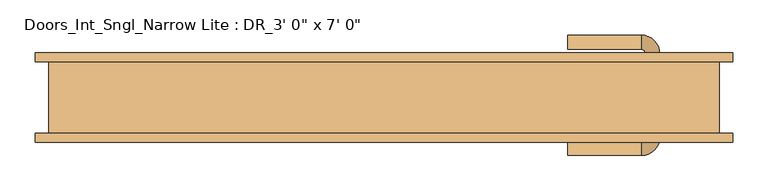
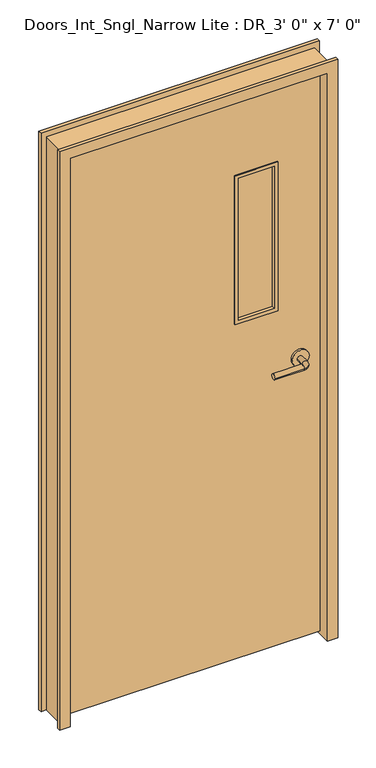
"""IFC4 building model written with IfcOpenShell, lengths in millimetres: door geometry."""

from ifc_helpers import new_model, si_unit, point, frame, frame_2d, origin, place, context, project, spatial, polyline, circle_curve, ellipse_curve, trimmed, segment, composite_curve, outline, extrude, faceted_brep, source, transform, mapped, element, save
from ifc_brep_helpers import plane_surface, cylinder_surface, revolved_surface, advanced_brep


def door_98901192(model_context):
    return source(origin(), model_context, "Body", "SolidModel", [
        advanced_brep(
        [(391.0, 33.4, 1066.8), (371.0, 33.4, 1066.8), (371.0, 63.4, 1066.8), (391.0, 63.4, 1066.8), (366.0, 68.4, 1066.8), (366.0, 88.4, 1066.8), (261.0, 88.4, 1066.8), (261.0, 68.4, 1066.8)],
        [
            (0, 1, circle_curve(frame((381.0, 33.4, 1066.8), z_axis=(0.0, -1.0, 0.0), x_axis=(-0.9999999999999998, 0.0, 0.0)), 10.0)),
            (1, 0, circle_curve(frame((381.0, 33.4, 1066.8), z_axis=(0.0, -1.0, 0.0), x_axis=(-0.9999999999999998, 0.0, 0.0)), 10.0)),
            (1, 2),
            (2, 3, circle_curve(frame((381.0, 63.4, 1066.8), z_axis=(0.0, -1.0, 0.0), x_axis=(-0.9999999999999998, 0.0, 0.0)), 10.0)),
            (3, 0),
            (3, 2, circle_curve(frame((381.0, 63.4, 1066.8), z_axis=(0.0, -1.0, 0.0), x_axis=(-0.9999999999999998, 0.0, 0.0)), 10.0)),
            (4, 5, circle_curve(frame((366.0, 78.4, 1066.8), z_axis=(0.9999999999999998, 0.0, 0.0), x_axis=(0.0, -0.9999999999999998, 0.0)), 10.0)),
            (5, 3, circle_curve(frame((366.0, 63.4, 1066.8), z_axis=(0.0, 0.0, -1.0), x_axis=(0.9999999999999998, 0.0, 0.0)), 25.0)),
            (2, 4, circle_curve(frame((366.0, 63.4, 1066.8), z_axis=(0.0, 0.0, 1.0), x_axis=(0.9999999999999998, 0.0, 0.0)), 5.0)),
            (5, 4, circle_curve(frame((366.0, 78.4, 1066.8), z_axis=(0.9999999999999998, 0.0, 0.0), x_axis=(0.0, -0.9999999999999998, 0.0)), 10.0)),
            (6, 7, circle_curve(frame((261.0, 78.4, 1066.8), z_axis=(-1.0, 0.0, 0.0), x_axis=(0.0, -0.9999999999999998, 0.0)), 10.0)),
            (7, 6, circle_curve(frame((261.0, 78.4, 1066.8), z_axis=(-1.0, 0.0, 0.0), x_axis=(0.0, -0.9999999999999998, 0.0)), 10.0)),
            (4, 7),
            (6, 5),
        ],
        [
            plane_surface(frame((381.0, 33.4, 1066.8), z_axis=(0.0, -1.0, 0.0), x_axis=(0.0, 0.0, 1.0))),
            cylinder_surface(frame((381.0, 33.4, 1066.8), z_axis=(0.0, -0.9999999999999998, 0.0), x_axis=(-0.9999999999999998, 0.0, 0.0)), 10.0),
            revolved_surface(trimmed(ellipse_curve(frame((381.0, 63.4, 1066.8), z_axis=(0.0, 0.9999999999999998, 0.0), x_axis=(-0.9999999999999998, 0.0, 0.0)), 10.0, 10.0), [point((391.0, 63.4, 1066.8))], [point((371.0, 63.4, 1066.8))], True, "CARTESIAN"), (366.0, 63.4, 1066.8), (0.0, 0.0, -1.0)),
            revolved_surface(trimmed(ellipse_curve(frame((381.0, 63.4, 1066.8), z_axis=(0.0, 0.9999999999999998, 0.0), x_axis=(-0.9999999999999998, 0.0, 0.0)), 10.0, 10.0), [point((371.0, 63.4, 1066.8))], [point((391.0, 63.4, 1066.8))], True, "CARTESIAN"), (366.0, 63.4, 1066.8), (0.0, 0.0, -1.0)),
            plane_surface(frame((261.0, 78.4, 1066.8), z_axis=(-1.0, 0.0, 0.0), x_axis=(0.0, 0.0, 1.0))),
            cylinder_surface(frame((366.0, 78.4, 1066.8), z_axis=(0.9999999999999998, 0.0, 0.0), x_axis=(0.0, -0.9999999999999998, 0.0)), 10.0),
        ],
        [
            (0, [[1, 2]]),
            (1, [[3, 4, 5, -2]]),
            (1, [[-5, 6, -3, -1]]),
            (2, [[7, 8, -4, 9]]),
            (3, [[10, -9, -6, -8]]),
            (4, [[11, 12]]),
            (5, [[13, -11, 14, -7]]),
            (5, [[-14, -12, -13, -10]]),
        ],
    ),
        extrude(outline(composite_curve([segment(trimmed(circle_curve(frame_2d((1066.8, 383.5)), 30.0), [point((1066.8, 413.5))], [point((1066.8, 353.5))], False, "CARTESIAN"), True, "CONTINUOUS"), segment(trimmed(circle_curve(frame_2d((1066.8, 383.5)), 30.0), [point((1066.8, 353.5))], [point((1066.8, 413.5))], False, "CARTESIAN"), True, "CONTINUOUS")], self_intersect=False)), frame((0.0, 25.4, 0.0), z_axis=(0.0, 1.0, 0.0), x_axis=(0.0, 0.0, 1.0)), (0.0, 0.0, 1.0), 8.0),
        advanced_brep(
        [(391.0, -27.05, 1066.8), (371.0, -27.05, 1066.8), (391.0, -57.05, 1066.8), (371.0, -57.05, 1066.8), (366.0, -62.05, 1066.8), (366.0, -82.05, 1066.8), (261.0, -82.05, 1066.8), (261.0, -62.05, 1066.8)],
        [
            (0, 1, circle_curve(frame((381.0, -27.05, 1066.8), z_axis=(0.0, 1.0, 0.0), x_axis=(-0.9999999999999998, 0.0, 0.0)), 10.0)),
            (1, 0, circle_curve(frame((381.0, -27.05, 1066.8), z_axis=(0.0, 1.0, 0.0), x_axis=(-0.9999999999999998, 0.0, 0.0)), 10.0)),
            (0, 2),
            (2, 3, circle_curve(frame((381.0, -57.05, 1066.8), z_axis=(0.0, 1.0, 0.0), x_axis=(-0.9999999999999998, 0.0, 0.0)), 10.0)),
            (3, 1),
            (3, 2, circle_curve(frame((381.0, -57.05, 1066.8), z_axis=(0.0, 1.0, 0.0), x_axis=(-0.9999999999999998, 0.0, 0.0)), 10.0)),
            (4, 3, circle_curve(frame((366.0, -57.05, 1066.8), z_axis=(0.0, 0.0, 1.0), x_axis=(0.9999999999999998, 0.0, 0.0)), 5.0)),
            (2, 5, circle_curve(frame((366.0, -57.05, 1066.8), z_axis=(0.0, 0.0, -1.0), x_axis=(0.9999999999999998, 0.0, 0.0)), 25.0)),
            (5, 4, circle_curve(frame((366.0, -72.05, 1066.8), z_axis=(0.9999999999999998, 0.0, 0.0), x_axis=(0.0, 0.9999999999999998, 0.0)), 10.0)),
            (4, 5, circle_curve(frame((366.0, -72.05, 1066.8), z_axis=(0.9999999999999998, 0.0, 0.0), x_axis=(0.0, 0.9999999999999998, 0.0)), 10.0)),
            (6, 7, circle_curve(frame((261.0, -72.05, 1066.8), z_axis=(-1.0, 0.0, 0.0), x_axis=(0.0, 0.9999999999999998, 0.0)), 10.0)),
            (7, 6, circle_curve(frame((261.0, -72.05, 1066.8), z_axis=(-1.0, 0.0, 0.0), x_axis=(0.0, 0.9999999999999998, 0.0)), 10.0)),
            (5, 6),
            (7, 4),
        ],
        [
            plane_surface(frame((381.0, -27.05, 1066.8), z_axis=(0.0, 1.0, 0.0), x_axis=(0.0, 0.0, 1.0))),
            cylinder_surface(frame((381.0, -27.05, 1066.8), z_axis=(0.0, 0.9999999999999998, 0.0), x_axis=(-0.9999999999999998, 0.0, 0.0)), 10.0),
            revolved_surface(trimmed(ellipse_curve(frame((381.0, -57.05, 1066.8), z_axis=(0.0, 0.9999999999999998, 0.0), x_axis=(-0.9999999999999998, 0.0, 0.0)), 10.0, 10.0), [point((391.0, -57.05, 1066.8))], [point((371.0, -57.05, 1066.8))], True, "CARTESIAN"), (366.0, -57.05, 1066.8), (0.0, 0.0, -1.0)),
            revolved_surface(trimmed(ellipse_curve(frame((381.0, -57.05, 1066.8), z_axis=(0.0, 0.9999999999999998, 0.0), x_axis=(-0.9999999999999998, 0.0, 0.0)), 10.0, 10.0), [point((371.0, -57.05, 1066.8))], [point((391.0, -57.05, 1066.8))], True, "CARTESIAN"), (366.0, -57.05, 1066.8), (0.0, 0.0, -1.0)),
            plane_surface(frame((261.0, -72.05, 1066.8), z_axis=(-1.0, 0.0, 0.0), x_axis=(0.0, 0.0, 1.0))),
            cylinder_surface(frame((366.0, -72.05, 1066.8), z_axis=(0.9999999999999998, 0.0, 0.0), x_axis=(0.0, 0.9999999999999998, 0.0)), 10.0),
        ],
        [
            (0, [[1, 2]]),
            (1, [[-1, 3, 4, 5]]),
            (1, [[-2, -5, 6, -3]]),
            (2, [[7, -4, 8, 9]]),
            (3, [[-8, -6, -7, 10]]),
            (4, [[11, 12]]),
            (5, [[-9, 13, -12, 14]]),
            (5, [[-10, -14, -11, -13]]),
        ],
    ),
        extrude(outline(composite_curve([segment(trimmed(circle_curve(frame_2d((1066.8, 383.5)), 30.0), [point((1066.8, 413.5))], [point((1066.8, 353.5))], False, "CARTESIAN"), True, "CONTINUOUS"), segment(trimmed(circle_curve(frame_2d((1066.8, 383.5)), 30.0), [point((1066.8, 353.5))], [point((1066.8, 413.5))], False, "CARTESIAN"), True, "CONTINUOUS")], self_intersect=False)), frame((0.0, -27.05, 0.0), z_axis=(0.0, 1.0, 0.0), x_axis=(0.0, 0.0, 1.0)), (0.0, 0.0, 1.0), 8.0),
        extrude(outline(polyline([(292.1, -9.525), (165.1, -9.525), (165.1, 15.875), (292.1, 15.875), (292.1, -9.525)])), frame((0.0, 0.0, 1282.7), z_axis=(0.0, 0.0, 1.0), x_axis=(1.0, 0.0, 0.0)), (0.0, 0.0, 1.0), 533.4),
        extrude(outline(polyline([(1270.0, 152.4), (1270.0, 304.8), (1828.8, 304.8), (1828.8, 152.4), (1270.0, 152.4)]), holes=[polyline([(1282.7, 165.1), (1816.1, 165.1), (1816.1, 292.1), (1282.7, 292.1), (1282.7, 165.1)])]), frame((0.0, -22.225, 0.0), z_axis=(0.0, 1.0, 0.0), x_axis=(0.0, 0.0, 1.0)), (0.0, 0.0, 1.0), 50.8),
        extrude(outline(polyline([(2133.6, 457.2), (2133.6, -457.2), (12.7, -457.2), (12.7, 457.2), (2133.6, 457.2)]), holes=[polyline([(1270.0, 152.4), (1828.8, 152.4), (1828.8, 304.8), (1270.0, 304.8), (1270.0, 152.4)])]), frame((0.0, -19.05, 0.0), z_axis=(0.0, 1.0, 0.0), x_axis=(0.0, 0.0, 1.0)), (0.0, 0.0, 1.0), 44.45),
        faceted_brep([(-457.2, -63.5, 0.0), (-495.3, -63.5, 0.0), (-495.3, -50.8, 0.0), (-476.25, -50.8, 0.0), (-476.25, 50.8, 0.0), (-495.3, 50.8, 0.0), (-495.3, 63.5, 0.0), (-457.2, 63.5, 0.0), (-457.2, -63.5, 2133.6), (457.2, -63.5, 2133.6), (457.2, -63.5, 0.0), (495.3, -63.5, 0.0), (495.3, -63.5, 2171.7), (-495.3, -63.5, 2171.7), (-495.3, -50.8, 2171.7), (495.3, -50.8, 2171.7), (495.3, -50.8, 0.0), (476.25, -50.8, 0.0), (476.25, -50.8, 2152.65), (-476.25, -50.8, 2152.65), (-476.25, 50.8, 2152.65), (476.25, 50.8, 2152.65), (476.25, 50.8, 0.0), (495.3, 50.8, 0.0), (495.3, 50.8, 2171.7), (-495.3, 50.8, 2171.7), (-495.3, 63.5, 2171.7), (495.3, 63.5, 2171.7), (495.3, 63.5, 0.0), (457.2, 63.5, 0.0), (457.2, 63.5, 2133.6), (-457.2, 63.5, 2133.6)], [[[0, 1, 2, 3, 4, 5, 6, 7]], [[1, 0, 8, 9, 10, 11, 12, 13]], [[2, 1, 13, 14]], [[3, 2, 14, 15, 16, 17, 18, 19]], [[4, 3, 19, 20]], [[5, 4, 20, 21, 22, 23, 24, 25]], [[6, 5, 25, 26]], [[7, 6, 26, 27, 28, 29, 30, 31]], [[0, 7, 31, 8]], [[9, 30, 29, 10]], [[10, 29, 28, 23, 22, 17, 16, 11]], [[15, 12, 11, 16]], [[27, 24, 23, 28]], [[21, 18, 17, 22]], [[20, 19, 18, 21]], [[8, 31, 30, 9]], [[14, 13, 12, 15]], [[26, 25, 24, 27]]]),
    ])


if __name__ == "__main__":
    model = new_model("IFC4")
    model_context = context("Model", 3, world=origin())
    ifc_project = project(units=[si_unit("LENGTHUNIT", "METRE", prefix="MILLI")], contexts=[model_context])
    site = spatial("IfcSite", under=ifc_project)
    building = spatial("IfcBuilding", under=site)
    placement = place(None, origin())
    door_shape = door_98901192(model_context)
    element("IfcDoor", 1, ObjectType="Doors_Int_Sngl_Narrow Lite : DR_3' 0\" x 7' 0\"", at=placement, inside=building, context=model_context, shape_type="MappedRepresentation", body=[
        mapped(door_shape, transform((0.0, 0.0, 0.0), x_axis=(1.0, 0.0, 0.0), y_axis=(0.0, 1.0, 0.0), z_axis=(0.0, 0.0, 1.0))),
    ])
    save(model, "model.ifc")
